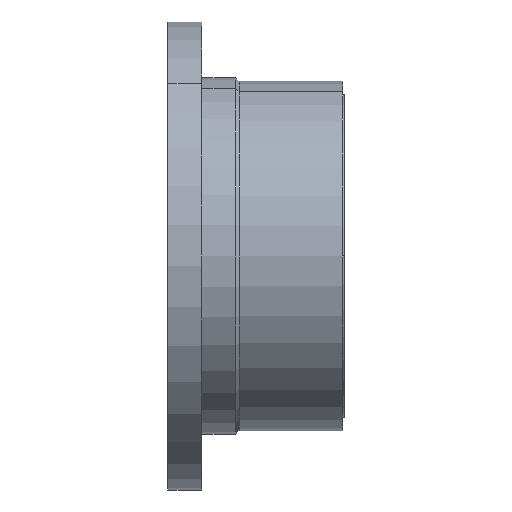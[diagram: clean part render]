
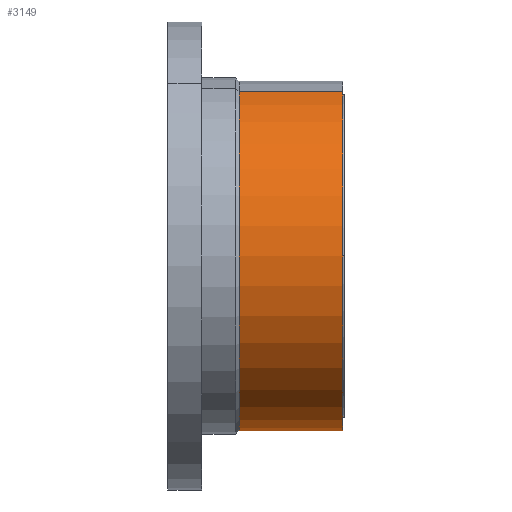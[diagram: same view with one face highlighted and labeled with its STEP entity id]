
A CAD part, left-side view. The second image highlights one B-rep face of the part: STEP entity #3149.
In plain terms, the highlighted cylindrical face has radius 51.5 mm (diameter 103 mm), a partial arc.
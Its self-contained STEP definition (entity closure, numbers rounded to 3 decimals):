
#69 = VECTOR ( 'NONE', #3009, 1000. ) ;
#126 = DIRECTION ( 'NONE',  ( 0.342, 0., -0.94 ) ) ;
#587 = EDGE_CURVE ( 'NONE', #2373, #4784, #1651, .T. ) ;
#1166 = DIRECTION ( 'NONE',  ( 0., -1., 0. ) ) ;
#1312 = CIRCLE ( 'NONE', #7884, 51.5 ) ;
#1651 = LINE ( 'NONE', #6203, #69 ) ;
#2202 = CYLINDRICAL_SURFACE ( 'NONE', #8409, 51.5 ) ;
#2373 = VERTEX_POINT ( 'NONE', #7499 ) ;
#2444 = DIRECTION ( 'NONE',  ( -0.342, 0., 0.94 ) ) ;
#2620 = CARTESIAN_POINT ( 'NONE',  ( 0., -12., 0. ) ) ;
#2897 = CARTESIAN_POINT ( 'NONE',  ( -17.614, -58.884, 48.394 ) ) ;
#3009 = DIRECTION ( 'NONE',  ( 0., -1., 0. ) ) ;
#3125 = ORIENTED_EDGE ( 'NONE', *, *, #3950, .F. ) ;
#3149 = ADVANCED_FACE ( 'NONE', ( #8341 ), #2202, .T. ) ;
#3867 = EDGE_CURVE ( 'NONE', #8113, #2373, #1312, .T. ) ;
#3950 = EDGE_CURVE ( 'NONE', #6525, #4784, #4816, .T. ) ;
#3992 = CARTESIAN_POINT ( 'NONE',  ( -17.614, -42.5, 48.394 ) ) ;
#4205 = ORIENTED_EDGE ( 'NONE', *, *, #3867, .T. ) ;
#4225 = ORIENTED_EDGE ( 'NONE', *, *, #587, .T. ) ;
#4238 = CARTESIAN_POINT ( 'NONE',  ( -17.614, -12., 48.394 ) ) ;
#4767 = ORIENTED_EDGE ( 'NONE', *, *, #7762, .F. ) ;
#4784 = VERTEX_POINT ( 'NONE', #6242 ) ;
#4807 = DIRECTION ( 'NONE',  ( 0., -1., 0. ) ) ;
#4816 = CIRCLE ( 'NONE', #5785, 51.5 ) ;
#5785 = AXIS2_PLACEMENT_3D ( 'NONE', #7384, #4807, #126 ) ;
#5987 = VECTOR ( 'NONE', #8202, 1000. ) ;
#6139 = LINE ( 'NONE', #2897, #5987 ) ;
#6203 = CARTESIAN_POINT ( 'NONE',  ( 17.614, -58.884, -48.394 ) ) ;
#6242 = CARTESIAN_POINT ( 'NONE',  ( 17.614, -42.5, -48.394 ) ) ;
#6313 = DIRECTION ( 'NONE',  ( 0.342, 0., -0.94 ) ) ;
#6450 = EDGE_LOOP ( 'NONE', ( #4767, #4205, #4225, #3125 ) ) ;
#6525 = VERTEX_POINT ( 'NONE', #3992 ) ;
#7384 = CARTESIAN_POINT ( 'NONE',  ( 0., -42.5, 0. ) ) ;
#7499 = CARTESIAN_POINT ( 'NONE',  ( 17.614, -12., -48.394 ) ) ;
#7544 = CARTESIAN_POINT ( 'NONE',  ( 0., -58.884, 0. ) ) ;
#7762 = EDGE_CURVE ( 'NONE', #8113, #6525, #6139, .T. ) ;
#7884 = AXIS2_PLACEMENT_3D ( 'NONE', #2620, #1166, #2444 ) ;
#8113 = VERTEX_POINT ( 'NONE', #4238 ) ;
#8202 = DIRECTION ( 'NONE',  ( 0., -1., 0. ) ) ;
#8341 = FACE_OUTER_BOUND ( 'NONE', #6450, .T. ) ;
#8377 = DIRECTION ( 'NONE',  ( 0., -1., 0. ) ) ;
#8409 = AXIS2_PLACEMENT_3D ( 'NONE', #7544, #8377, #6313 ) ;
